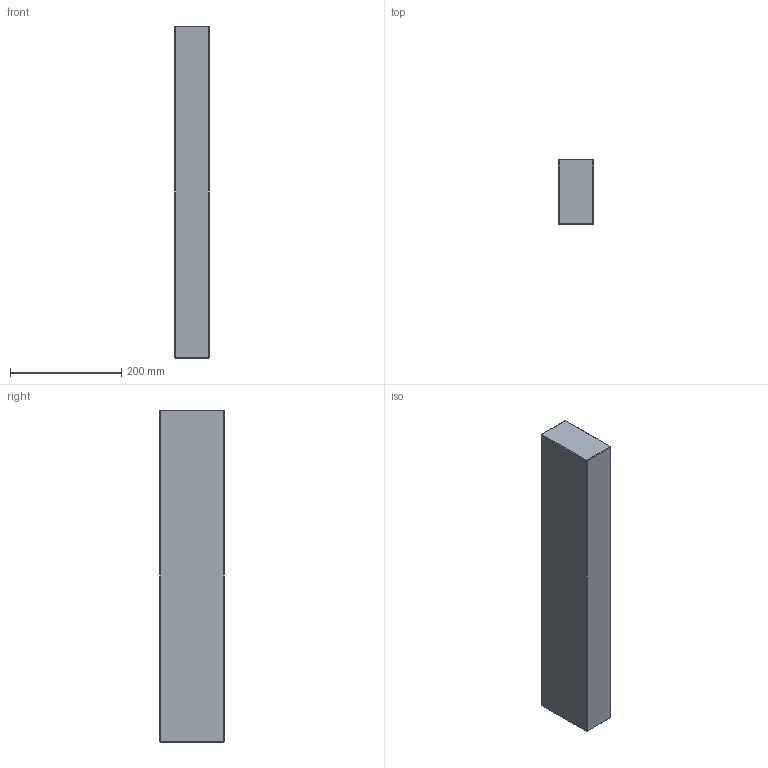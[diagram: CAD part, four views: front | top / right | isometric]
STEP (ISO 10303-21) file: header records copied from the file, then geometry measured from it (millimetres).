
FILE_DESCRIPTION (( 'STEP AP214' ), '1' );
FILE_NAME ('ESP-P-346X596x116.STEP', '2020-04-08T11:11:28', ( 'August' ), ( '' ), 'SwSTEP 2.0', 'SolidWorks 2018', '' );
FILE_SCHEMA (( 'AUTOMOTIVE_DESIGN' ));
Length unit declared in the file: millimetre
Products named in the file (1): ESP-P-346X596x116
Bounding box: 62 x 116 x 596 mm (x, y, z)
Volume: 4284889.3 mm3; surface area: 224743.4 mm2
Topology: 1 solids, 1 shells, 26 faces, 48 edges, 24 vertices
Faces by surface type: plane 26
Entity records: 634 total; most frequent: DIRECTION 102, CARTESIAN_POINT 99, ORIENTED_EDGE 96, LINE 48, VECTOR 48, EDGE_CURVE 48, AXIS2_PLACEMENT_3D 27, EDGE_LOOP 26
